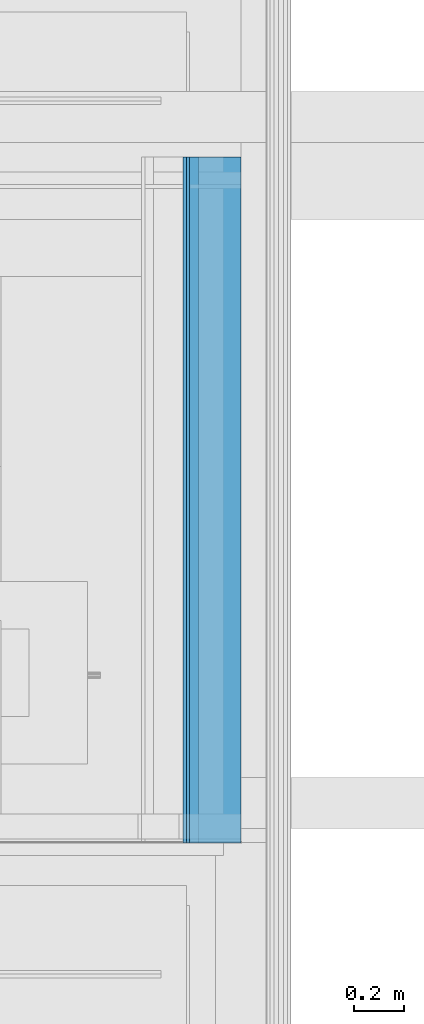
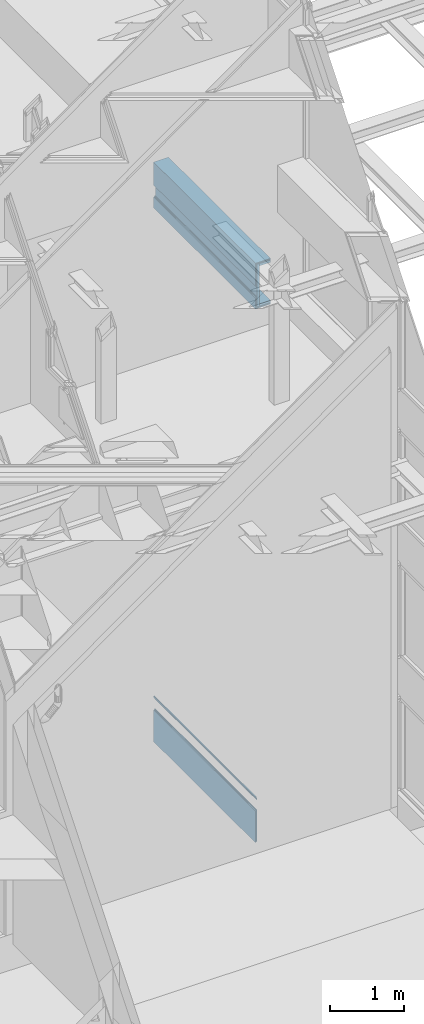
# One storey, part 114 of 583: 15 building element parts, 4 elements without a shape of their own.
"""IFC2X3 building model written with IfcOpenShell, lengths in metres."""

from ifc_helpers import new_model, entity, si_unit, converted_unit, derived_unit, money_unit, direction, frame, frame_2d, origin_with_axes, place, context, subcontext, project, spatial, polyline, rectangle, outline, extrude, material, type_object, element, aggregate, save


model = new_model("IFC2X3")

# Units and contexts
model_context = context("Model", 3, precision=1e-05, world=origin_with_axes(), true_north=direction((0.0, 1.0)))
body_context = subcontext(model_context, "Body", "Model", "MODEL_VIEW", scale=1.0)
ifc_project = project(units=[si_unit("LENGTHUNIT", "METRE"), si_unit("AREAUNIT", "SQUARE_METRE"), si_unit("VOLUMEUNIT", "CUBIC_METRE"), si_unit("ABSORBEDDOSEUNIT", "GRAY"), si_unit("AMOUNTOFSUBSTANCEUNIT", "MOLE"), si_unit("DOSEEQUIVALENTUNIT", "SIEVERT"), si_unit("ELECTRICCAPACITANCEUNIT", "FARAD"), si_unit("ELECTRICCHARGEUNIT", "COULOMB"), si_unit("ELECTRICCONDUCTANCEUNIT", "SIEMENS"), si_unit("ELECTRICCURRENTUNIT", "AMPERE"), si_unit("ELECTRICRESISTANCEUNIT", "OHM"), si_unit("ELECTRICVOLTAGEUNIT", "VOLT"), si_unit("ENERGYUNIT", "JOULE"), si_unit("FORCEUNIT", "NEWTON"), si_unit("FREQUENCYUNIT", "HERTZ"), si_unit("ILLUMINANCEUNIT", "LUX"), si_unit("INDUCTANCEUNIT", "HENRY"), si_unit("LUMINOUSFLUXUNIT", "LUMEN"), si_unit("LUMINOUSINTENSITYUNIT", "CANDELA"), si_unit("MAGNETICFLUXDENSITYUNIT", "TESLA"), si_unit("MAGNETICFLUXUNIT", "WEBER"), si_unit("MASSUNIT", "GRAM"), converted_unit("PLANEANGLEUNIT", "degree", entity("IfcReal", 0.0174532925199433), si_unit("PLANEANGLEUNIT", "RADIAN"), dimensions=[0, 0, 0, 0, 0, 0, 0]), si_unit("POWERUNIT", "WATT"), si_unit("PRESSUREUNIT", "PASCAL"), si_unit("RADIOACTIVITYUNIT", "BECQUEREL"), si_unit("SOLIDANGLEUNIT", "STERADIAN"), si_unit("THERMODYNAMICTEMPERATUREUNIT", "KELVIN"), si_unit("TIMEUNIT", "SECOND"), derived_unit("ACCELERATIONUNIT", [(si_unit("LENGTHUNIT", "METRE"), 1), (si_unit("TIMEUNIT", "SECOND"), -2)]), derived_unit("ANGULARVELOCITYUNIT", [(converted_unit("PLANEANGLEUNIT", "degree", entity("IfcReal", 0.0174532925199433), si_unit("PLANEANGLEUNIT", "RADIAN"), dimensions=[0, 0, 0, 0, 0, 0, 0]), 1), (si_unit("TIMEUNIT", "SECOND"), -1)]), derived_unit("CURVATUREUNIT", [(converted_unit("PLANEANGLEUNIT", "degree", entity("IfcReal", 0.0174532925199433), si_unit("PLANEANGLEUNIT", "RADIAN"), dimensions=[0, 0, 0, 0, 0, 0, 0]), 1), (si_unit("LENGTHUNIT", "METRE"), -1)]), derived_unit("DYNAMICVISCOSITYUNIT", [(si_unit("PRESSUREUNIT", "PASCAL"), 1), (si_unit("TIMEUNIT", "SECOND"), 1)]), derived_unit("HEATFLUXDENSITYUNIT", [(si_unit("POWERUNIT", "WATT"), 1), (si_unit("LENGTHUNIT", "METRE"), -2)]), derived_unit("HEATINGVALUEUNIT", [(si_unit("ENERGYUNIT", "JOULE"), 1), (si_unit("MASSUNIT", "GRAM"), -1)]), derived_unit("INTEGERCOUNTRATEUNIT", [(si_unit("TIMEUNIT", "SECOND"), -1)]), derived_unit("IONCONCENTRATIONUNIT", [(si_unit("MASSUNIT", "GRAM"), 1), (si_unit("VOLUMEUNIT", "CUBIC_METRE"), -1)]), derived_unit("ISOTHERMALMOISTURECAPACITYUNIT", [(si_unit("VOLUMEUNIT", "CUBIC_METRE"), 1), (si_unit("MASSUNIT", "GRAM"), -1)]), derived_unit("KINEMATICVISCOSITYUNIT", [(si_unit("AREAUNIT", "SQUARE_METRE"), 1), (si_unit("TIMEUNIT", "SECOND"), -1)]), derived_unit("LINEARFORCEUNIT", [(si_unit("FORCEUNIT", "NEWTON"), 1), (si_unit("LENGTHUNIT", "METRE"), -1)]), derived_unit("LINEARMOMENTUNIT", [(si_unit("FORCEUNIT", "NEWTON"), 1), (si_unit("LENGTHUNIT", "METRE"), -1)]), derived_unit("LINEARSTIFFNESSUNIT", [(si_unit("FORCEUNIT", "NEWTON"), 1), (si_unit("LENGTHUNIT", "METRE"), -1)]), derived_unit("LINEARVELOCITYUNIT", [(si_unit("LENGTHUNIT", "METRE"), 1), (si_unit("TIMEUNIT", "SECOND"), -1)]), derived_unit("LUMINOUSINTENSITYDISTRIBUTIONUNIT", [(si_unit("LUMINOUSINTENSITYUNIT", "CANDELA"), 1), (si_unit("LUMINOUSFLUXUNIT", "LUMEN"), -1)]), derived_unit("MASSDENSITYUNIT", [(si_unit("MASSUNIT", "GRAM"), 1), (si_unit("VOLUMEUNIT", "CUBIC_METRE"), -1)]), derived_unit("MASSFLOWRATEUNIT", [(si_unit("MASSUNIT", "GRAM"), 1), (si_unit("TIMEUNIT", "SECOND"), -1)]), derived_unit("MASSPERLENGTHUNIT", [(si_unit("MASSUNIT", "GRAM"), 1), (si_unit("LENGTHUNIT", "METRE"), -1)]), derived_unit("MODULUSOFELASTICITYUNIT", [(si_unit("FORCEUNIT", "NEWTON"), 1), (si_unit("AREAUNIT", "SQUARE_METRE"), -1)]), derived_unit("MODULUSOFLINEARSUBGRADEREACTIONUNIT", [(si_unit("FORCEUNIT", "NEWTON"), 1), (si_unit("LENGTHUNIT", "METRE"), -2)]), derived_unit("MODULUSOFROTATIONALSUBGRADEREACTIONUNIT", [(si_unit("FORCEUNIT", "NEWTON"), 1), (si_unit("LENGTHUNIT", "METRE"), 1)]), derived_unit("MODULUSOFSUBGRADEREACTIONUNIT", [(si_unit("FORCEUNIT", "NEWTON"), 1), (si_unit("VOLUMEUNIT", "CUBIC_METRE"), -1)]), derived_unit("MOISTUREDIFFUSIVITYUNIT", [(si_unit("VOLUMEUNIT", "CUBIC_METRE"), 1), (si_unit("TIMEUNIT", "SECOND"), -1)]), derived_unit("MOLECULARWEIGHTUNIT", [(si_unit("MASSUNIT", "GRAM"), 1), (si_unit("AMOUNTOFSUBSTANCEUNIT", "MOLE"), -1)]), derived_unit("PLANARFORCEUNIT", [(si_unit("FORCEUNIT", "NEWTON"), 1), (si_unit("LENGTHUNIT", "METRE"), -2)]), derived_unit("ROTATIONALFREQUENCYUNIT", [(si_unit("TIMEUNIT", "SECOND"), -1)]), derived_unit("ROTATIONALMASSUNIT", [(si_unit("MASSUNIT", "GRAM"), 1), (si_unit("LENGTHUNIT", "METRE"), 2)]), derived_unit("ROTATIONALSTIFFNESSUNIT", [(si_unit("FORCEUNIT", "NEWTON"), 1), (si_unit("LENGTHUNIT", "METRE"), 1), (converted_unit("PLANEANGLEUNIT", "degree", entity("IfcReal", 0.0174532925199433), si_unit("PLANEANGLEUNIT", "RADIAN"), dimensions=[0, 0, 0, 0, 0, 0, 0]), -1)]), derived_unit("SECTIONAREAINTEGRALUNIT", [(si_unit("LENGTHUNIT", "METRE"), 5)]), derived_unit("SECTIONMODULUSUNIT", [(si_unit("LENGTHUNIT", "METRE"), 3)]), derived_unit("SHEARMODULUSUNIT", [(si_unit("FORCEUNIT", "NEWTON"), 1), (si_unit("AREAUNIT", "SQUARE_METRE"), -1)]), derived_unit("SOUNDPOWERUNIT", [(si_unit("ENERGYUNIT", "JOULE"), 1), (si_unit("TIMEUNIT", "SECOND"), -1)]), derived_unit("SPECIFICHEATCAPACITYUNIT", [(si_unit("FORCEUNIT", "NEWTON"), 1), (si_unit("MASSUNIT", "GRAM"), -1), (si_unit("THERMODYNAMICTEMPERATUREUNIT", "KELVIN"), -1)]), derived_unit("TEMPERATUREGRADIENTUNIT", [(si_unit("THERMODYNAMICTEMPERATUREUNIT", "KELVIN"), 1), (si_unit("LENGTHUNIT", "METRE"), -1)]), derived_unit("THERMALADMITTANCEUNIT", [(si_unit("POWERUNIT", "WATT"), 1), (si_unit("AREAUNIT", "SQUARE_METRE"), -1), (si_unit("THERMODYNAMICTEMPERATUREUNIT", "KELVIN"), -1)]), derived_unit("THERMALCONDUCTANCEUNIT", [(si_unit("POWERUNIT", "WATT"), 1), (si_unit("LENGTHUNIT", "METRE"), -1), (si_unit("THERMODYNAMICTEMPERATUREUNIT", "KELVIN"), -1)]), derived_unit("THERMALEXPANSIONCOEFFICIENTUNIT", [(si_unit("THERMODYNAMICTEMPERATUREUNIT", "KELVIN"), -1)]), derived_unit("THERMALRESISTANCEUNIT", [(si_unit("AREAUNIT", "SQUARE_METRE"), 1), (si_unit("POWERUNIT", "WATT"), -1)]), derived_unit("THERMALTRANSMITTANCEUNIT", [(si_unit("POWERUNIT", "WATT"), 1), (si_unit("AREAUNIT", "SQUARE_METRE"), -1), (si_unit("THERMODYNAMICTEMPERATUREUNIT", "KELVIN"), -1)]), derived_unit("TORQUEUNIT", [(si_unit("FORCEUNIT", "NEWTON"), 1), (si_unit("LENGTHUNIT", "METRE"), 1)]), derived_unit("VAPORPERMEABILITYUNIT", [(si_unit("MASSUNIT", "GRAM"), 1), (si_unit("TIMEUNIT", "SECOND"), -1)]), derived_unit("VOLUMETRICFLOWRATEUNIT", [(si_unit("VOLUMEUNIT", "CUBIC_METRE"), 1), (si_unit("TIMEUNIT", "SECOND"), -1)]), derived_unit("WARPINGCONSTANTUNIT", [(si_unit("LENGTHUNIT", "METRE"), 6)]), derived_unit("WARPINGMOMENTUNIT", [(si_unit("FORCEUNIT", "NEWTON"), 1), (si_unit("LENGTHUNIT", "METRE"), 2)]), money_unit("GBP")], contexts=[model_context])

# Site, building, storey
site_placement = place(None, origin_with_axes())
site = spatial("IfcSite", under=ifc_project, at=site_placement, Name="Site", CompositionType="ELEMENT")
building_placement = place(site_placement, origin_with_axes())
building = spatial("IfcBuilding", under=site, at=building_placement, Name="Building01", CompositionType="ELEMENT")
storey_placement = place(building_placement, frame((0.0, 0.0, 20.78), z_axis=(0.0, 0.0, 1.0), x_axis=(1.0, 0.0, 0.0)))
storey = spatial("IfcBuildingStorey", under=building, at=storey_placement, Name="RL", CompositionType="ELEMENT", Elevation=20.78)

# Wall, building element parts
wall_type = type_object("IfcWallType", Name="SHE_A-Walls_Type06f_ExternalWallInsulation_48+15mm", PredefinedType="NOTDEFINED")
wall_1_placement = place(storey_placement, frame((14.63, 8.64, -13.497), z_axis=(0.0, 1.0, 0.0), x_axis=(0.0, 0.0, -1.0)))
wall_1 = element("IfcWall", 1, at=wall_1_placement, inside=storey, type_object=wall_type, Name="6F", ObjectType="SHE_A-Walls_Type06f_ExternalWallInsulation_48+15mm")
ifc_material_1 = material(Name="A_BSUK_WallInternal_Finishes_Plasterboard")
placement_1 = place(wall_1_placement, origin_with_axes())
building_element_part_1 = element("IfcBuildingElementPart", 2, at=placement_1, material=ifc_material_1, Name="3", context=body_context, shape_type="SweptSolid", body=[
    extrude(rectangle(XDim=0.020331, YDim=0.015, at=frame_2d((-0.016834, 0.0555), x_axis=(-1.0, 0.0))), origin_with_axes(), (0.0, 0.0, 1.0), 2.74),
])
building_element_part_2 = element("IfcBuildingElementPart", 3, at=placement_1, material=ifc_material_1, Name="5", context=body_context, shape_type="SweptSolid", body=[
    extrude(outline(polyline([(0.723124, 0.063), (0.203331, 0.063), (0.203331, 0.048), (0.708124, 0.048), (0.723124, 0.063)])), origin_with_axes(), (0.0, 0.0, 1.0), 2.74),
])
building_element_part_3 = element("IfcBuildingElementPart", 4, at=placement_1, material=ifc_material_1, Name="6", context=body_context, shape_type="SweptSolid", body=[
    extrude(rectangle(XDim=0.012, YDim=0.023252, at=frame_2d((0.011626, 0.042), x_axis=(0.0, -1.0))), origin_with_axes(), (0.0, 0.0, 1.0), 2.74),
])
building_element_part_4 = element("IfcBuildingElementPart", 5, at=placement_1, material=ifc_material_1, Name="7", context=body_context, shape_type="SweptSolid", body=[
    extrude(rectangle(XDim=0.519793, YDim=0.012, at=frame_2d((0.448228, 0.042), x_axis=(-1.0, 0.0))), origin_with_axes(), (0.0, 0.0, 1.0), 2.74),
])
aggregate(wall_1, [building_element_part_1, building_element_part_2, building_element_part_3, building_element_part_4])

wall_2_placement = place(storey_placement, frame((14.63, 8.64, -5.397), z_axis=(0.0, 1.0, 0.0), x_axis=(1.0, 0.0, 0.0)))
wall_2 = element("IfcWall", 6, at=wall_2_placement, inside=storey, type_object=wall_type, Name="6F", ObjectType="SHE_A-Walls_Type06f_ExternalWallInsulation_48+15mm")
ifc_material_2 = material(Name="A_BSUK_Insulation")
placement_2 = place(wall_2_placement, origin_with_axes())
building_element_part_5 = element("IfcBuildingElementPart", 7, at=placement_2, material=ifc_material_2, Name="1", context=body_context, shape_type="SweptSolid", body=[
    extrude(rectangle(XDim=0.17, YDim=0.036, at=frame_2d((0.085, 0.018), x_axis=(-1.0, 0.0))), origin_with_axes(), (0.0, 0.0, 1.0), 2.74),
])
building_element_part_6 = element("IfcBuildingElementPart", 8, at=placement_2, material=ifc_material_1, Name="3", context=body_context, shape_type="SweptSolid", body=[
    extrude(outline(polyline([(0.17, 0.063), (-0.063, 0.063), (-0.048, 0.048), (0.17, 0.048), (0.17, 0.063)])), origin_with_axes(), (0.0, 0.0, 1.0), 2.74),
])
building_element_part_7 = element("IfcBuildingElementPart", 9, at=placement_2, material=ifc_material_1, Name="4", context=body_context, shape_type="SweptSolid", body=[
    extrude(rectangle(XDim=0.206, YDim=0.012, at=frame_2d((0.067, 0.042), x_axis=(-1.0, 0.0))), origin_with_axes(), (0.0, 0.0, 1.0), 2.74),
])
aggregate(wall_2, [building_element_part_5, building_element_part_6, building_element_part_7])

wall_3_placement = place(storey_placement, frame((14.63, 8.64, -4.736876), z_axis=(0.0, 1.0, 0.0), x_axis=(0.0, 0.0, -1.0)))
wall_3 = element("IfcWall", 10, at=wall_3_placement, inside=storey, type_object=wall_type, Name="6F", ObjectType="SHE_A-Walls_Type06f_ExternalWallInsulation_48+15mm")
placement_3 = place(wall_3_placement, origin_with_axes())
building_element_part_8 = element("IfcBuildingElementPart", 11, at=placement_3, material=ifc_material_2, Name="1", context=body_context, shape_type="SweptSolid", body=[
    extrude(rectangle(XDim=0.696124, YDim=0.036, at=frame_2d((0.348062, 0.018), x_axis=(-1.0, 0.0))), origin_with_axes(), (0.0, 0.0, 1.0), 2.74),
])
building_element_part_9 = element("IfcBuildingElementPart", 12, at=placement_3, material=ifc_material_1, Name="3", context=body_context, shape_type="SweptSolid", body=[
    extrude(outline(polyline([(0.349992, 0.063), (-0.027, 0.063), (-0.012, 0.048), (0.349992, 0.048), (0.349992, 0.063)])), origin_with_axes(), (0.0, 0.0, 1.0), 2.74),
])
building_element_part_10 = element("IfcBuildingElementPart", 13, at=placement_3, material=ifc_material_1, Name="5", context=body_context, shape_type="SweptSolid", body=[
    extrude(outline(polyline([(0.723124, 0.063), (0.544992, 0.063), (0.544992, 0.048), (0.708124, 0.048), (0.723124, 0.063)])), origin_with_axes(), (0.0, 0.0, 1.0), 2.74),
])
building_element_part_11 = element("IfcBuildingElementPart", 14, at=placement_3, material=ifc_material_1, Name="6", context=body_context, shape_type="SweptSolid", body=[
    extrude(rectangle(XDim=0.178132, YDim=0.012, at=frame_2d((0.619058, 0.042), x_axis=(-1.0, 0.0))), origin_with_axes(), (0.0, 0.0, 1.0), 2.74),
])
building_element_part_12 = element("IfcBuildingElementPart", 15, at=placement_3, material=ifc_material_1, Name="7", context=body_context, shape_type="SweptSolid", body=[
    extrude(rectangle(XDim=0.364992, YDim=0.012, at=frame_2d((0.182496, 0.042), x_axis=(-1.0, 0.0))), origin_with_axes(), (0.0, 0.0, 1.0), 2.74),
])
aggregate(wall_3, [building_element_part_8, building_element_part_9, building_element_part_10, building_element_part_11, building_element_part_12])

wall_4_placement = place(storey_placement, frame((14.63, 8.64, -4.772876), z_axis=(0.0, 1.0, 0.0), x_axis=(1.0, 0.0, 0.0)))
wall_4 = element("IfcWall", 16, at=wall_4_placement, inside=storey, type_object=wall_type, Name="6F", ObjectType="SHE_A-Walls_Type06f_ExternalWallInsulation_48+15mm")
placement_4 = place(wall_4_placement, origin_with_axes())
building_element_part_13 = element("IfcBuildingElementPart", 17, at=placement_4, material=ifc_material_2, Name="1", context=body_context, shape_type="SweptSolid", body=[
    extrude(rectangle(XDim=0.17, YDim=0.036, at=frame_2d((0.085, -0.018), x_axis=(-1.0, 0.0))), origin_with_axes(), (0.0, 0.0, 1.0), 2.74),
])
building_element_part_14 = element("IfcBuildingElementPart", 18, at=placement_4, material=ifc_material_1, Name="3", context=body_context, shape_type="SweptSolid", body=[
    extrude(outline(polyline([(0.17, -0.048), (-0.048, -0.048), (-0.063, -0.063), (0.17, -0.063), (0.17, -0.048)])), origin_with_axes(), (0.0, 0.0, 1.0), 2.74),
])
building_element_part_15 = element("IfcBuildingElementPart", 19, at=placement_4, material=ifc_material_1, Name="4", context=body_context, shape_type="SweptSolid", body=[
    extrude(rectangle(XDim=0.218, YDim=0.012, at=frame_2d((0.061, -0.042), x_axis=(-1.0, 0.0))), origin_with_axes(), (0.0, 0.0, 1.0), 2.74),
])
aggregate(wall_4, [building_element_part_13, building_element_part_14, building_element_part_15])

save(model, "model.ifc")
